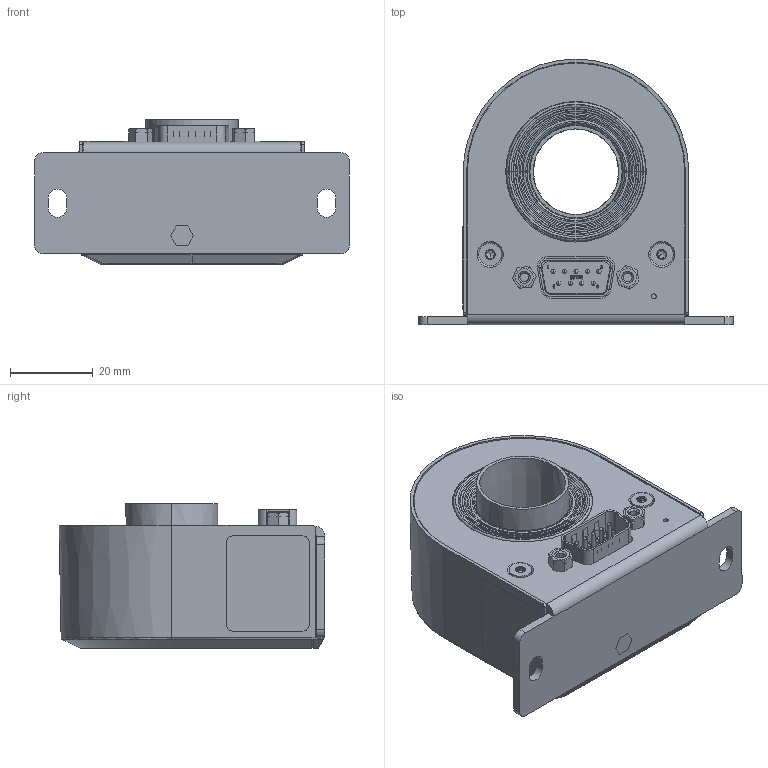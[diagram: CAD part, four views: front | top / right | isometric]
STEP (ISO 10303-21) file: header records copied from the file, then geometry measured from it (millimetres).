
FILE_DESCRIPTION (( 'STEP AP214' ), '1' );
FILE_NAME ('1211100017 DTx0ID.STEP', '2022-05-17T13:50:39', ( '' ), ( '' ), 'SwSTEP 2.0', 'SolidWorks 2019', '' );
FILE_SCHEMA (( 'AUTOMOTIVE_DESIGN' ));
Length unit declared in the file: millimetre
Products named in the file (1): 1211100017 DTx0ID
Bounding box: 76 x 64.25 x 35.06 mm (x, y, z)
Surface area: 22838.8 mm2 (no closed solid volume)
Topology: 0 solids, 16 shells, 356 faces, 1348 edges, 982 vertices
Faces by surface type: cylinder 118, plane 92, cone 64, torus 40, bspline 24, sphere 18
Entity records: 21125 total; most frequent: CARTESIAN_POINT 6701, DIRECTION 2053, ORIENTED_EDGE 2035, EDGE_CURVE 1308, VERTEX_POINT 964, AXIS2_PLACEMENT_3D 753, LINE 547, VECTOR 547
